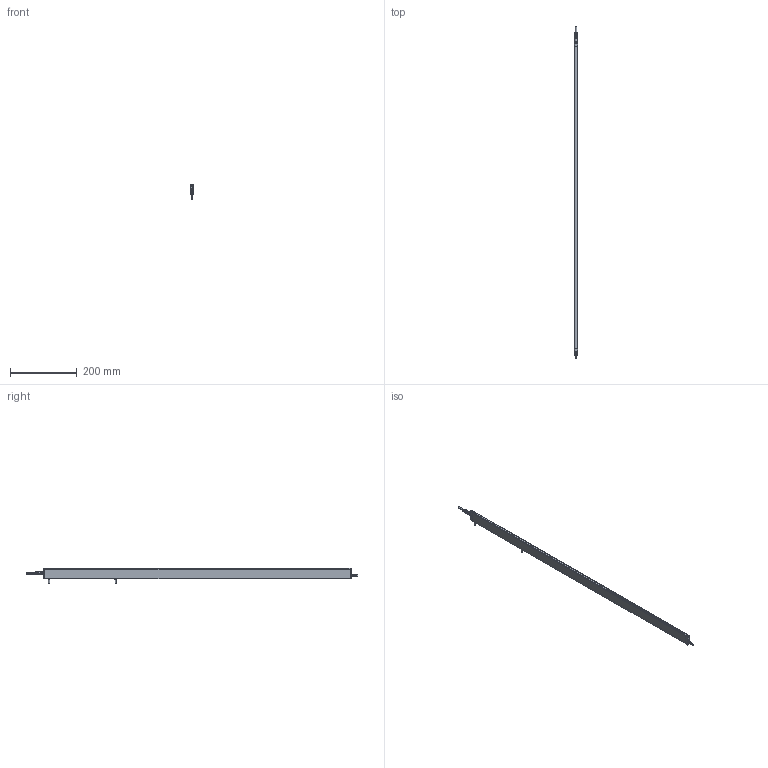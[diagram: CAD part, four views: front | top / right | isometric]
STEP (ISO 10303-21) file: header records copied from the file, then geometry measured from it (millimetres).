
FILE_DESCRIPTION (( 'STEP AP214' ), '1' );
FILE_NAME ('ILG-B-K2-0920mm.STEP', '2017-07-10T12:43:55', ( '' ), ( '' ), 'SwSTEP 2.0', 'SolidWorks 2016', '' );
FILE_SCHEMA (( 'AUTOMOTIVE_DESIGN' ));
Length unit declared in the file: millimetre
Products named in the file (1): ILG-B-K2-0920mm
Bounding box: 9 x 993.5 x 46.21 mm (x, y, z)
Surface area: 156382.4 mm2 (no closed solid volume)
Topology: 0 solids, 15 shells, 702 faces, 1822 edges, 1157 vertices
Faces by surface type: cylinder 287, plane 266, cone 99, bspline 32, torus 18
Entity records: 31388 total; most frequent: CARTESIAN_POINT 6631, ORIENTED_EDGE 3597, DIRECTION 3488, EDGE_CURVE 1806, AXIS2_PLACEMENT_3D 1342, VERTEX_POINT 1157, LINE 804, VECTOR 804
